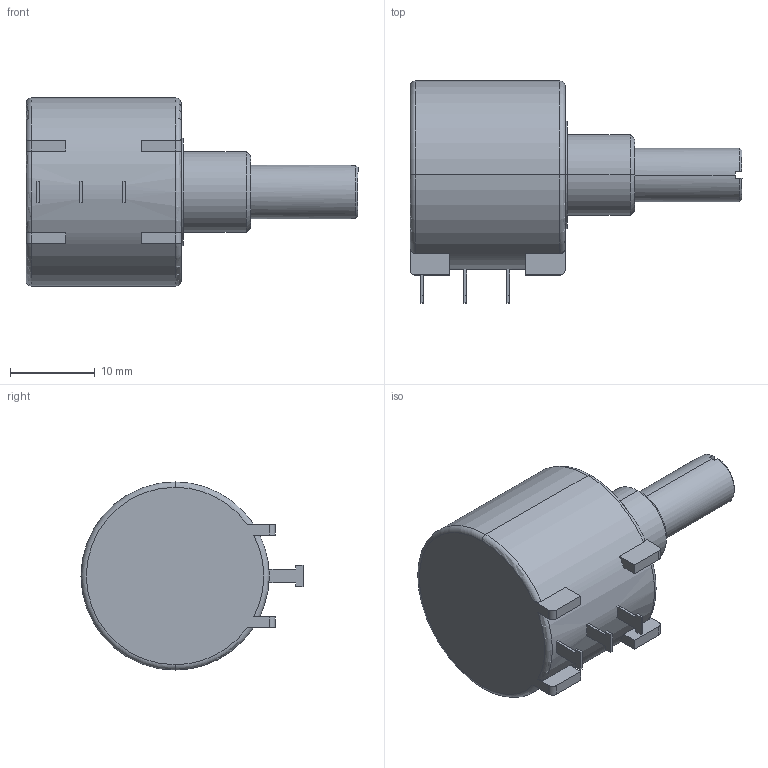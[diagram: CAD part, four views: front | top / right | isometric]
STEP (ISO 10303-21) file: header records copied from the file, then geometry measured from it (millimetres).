
FILE_DESCRIPTION (( 'STEP AP214' ), '1' );
FILE_NAME ('3590S-2-103L.STEP', '2024-05-18T03:02:19', ( '' ), ( '' ), 'SwSTEP 2.0', 'SolidWorks 2021', '' );
FILE_SCHEMA (( 'AUTOMOTIVE_DESIGN' ));
Length unit declared in the file: millimetre
Products named in the file (1): 3590S-2-103L
Bounding box: 39.22 x 26.23 x 22.23 mm (x, y, z)
Volume: 8151.3 mm3; surface area: 2667.6 mm2
Topology: 1 solids, 1 shells, 77 faces, 201 edges, 132 vertices
Faces by surface type: plane 52, cylinder 12, torus 8, cone 5
Entity records: 3200 total; most frequent: CARTESIAN_POINT 500, DIRECTION 403, ORIENTED_EDGE 402, EDGE_CURVE 201, AXIS2_PLACEMENT_3D 137, VERTEX_POINT 132, VECTOR 129, LINE 129
